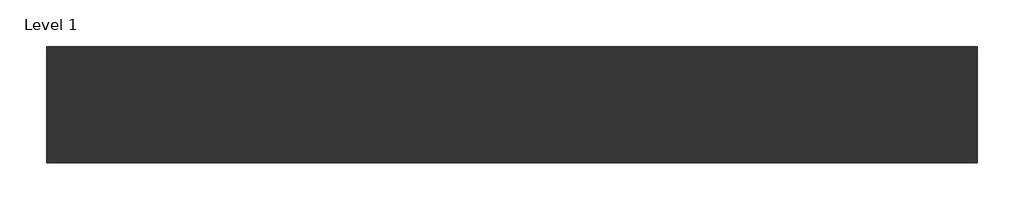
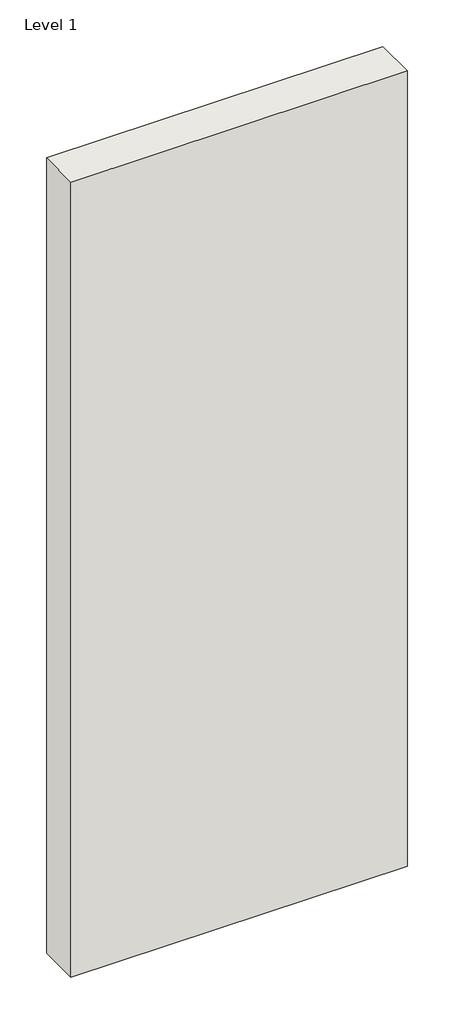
# One storey: 1 wall.
"""IFC4 building model written with IfcOpenShell, lengths in millimetres."""

import ifcopenshell
import ifcopenshell.guid

model = None  # the IFC model being written
_history = None  # IfcOwnerHistory: only IFC2X3 demands one
_inside = {}  # id of a spatial element -> (the spatial element, [elements in it])
_under = {}  # id of a project, library or spatial element -> (it, [spatial elements below it])
_declared = {}  # id of a project -> (the project, [libraries it declares])
_typed = {}  # id of a type object -> (the type object, [elements of that type])
_made_of = {}  # id of a material, layer set ... -> (it, [elements and type objects made of it])


def new_model(schema):
    """Start an empty IFC model of exactly this schema.

    Asked for "IFC4X3", IfcOpenShell would pick the latest addendum, in which some entities
    have other attributes; the version numbers below select the first issue.
    IFC2X3 requires an IfcOwnerHistory on every rooted entity: one is made here for all.
    """
    global model, _history
    if schema == "IFC4X3":
        model = ifcopenshell.file(schema_version=(4, 3, 0, 0))
    else:
        model = ifcopenshell.file(schema=schema)
    _inside.clear()
    _under.clear()
    _declared.clear()
    _typed.clear()
    _made_of.clear()
    _history = None
    if model.schema == "IFC2X3":
        org = make("IfcOrganization", Name="unknown")
        user = make(
            "IfcPersonAndOrganization",
            ThePerson=make("IfcPerson", FamilyName="unknown"),
            TheOrganization=org,
        )
        app = make(
            "IfcApplication",
            ApplicationDeveloper=org,
            Version="unknown",
            ApplicationFullName="unknown",
            ApplicationIdentifier="unknown",
        )
        _history = make(
            "IfcOwnerHistory",
            OwningUser=user,
            OwningApplication=app,
            ChangeAction="ADDED",
            CreationDate=0,
        )
    return model


def make(cls, **values):
    """One entity of the class cls with the attributes given. An attribute that is None is left unset."""
    return model.create_entity(
        cls, **{name: value for name, value in values.items() if value is not None}
    )


def rooted(cls, **values):
    """An entity with a GlobalId (a new one), such as an element, a storey or a relation."""
    return make(cls, GlobalId=ifcopenshell.guid.new(), OwnerHistory=_history, **values)


def si_unit(unit_type, name, prefix=None):
    """IfcSIUnit, for example si_unit("LENGTHUNIT", "METRE", prefix="MILLI")."""
    return make("IfcSIUnit", UnitType=unit_type, Prefix=prefix, Name=name)


def assignment(units):
    """IfcUnitAssignment: the units of a project."""
    return None if units is None else make("IfcUnitAssignment", Units=units)


def point(xyz):
    """IfcCartesianPoint."""
    return None if xyz is None else make("IfcCartesianPoint", Coordinates=xyz)


def direction(xyz):
    """IfcDirection."""
    return None if xyz is None else make("IfcDirection", DirectionRatios=xyz)


def frame(location, z_axis=None, x_axis=None):
    """IfcAxis2Placement3D, a coordinate frame: its origin and axes. An axis left out is left unset."""
    return make(
        "IfcAxis2Placement3D",
        Location=point(location),
        Axis=direction(z_axis),
        RefDirection=direction(x_axis),
    )


def origin():
    """The frame at (0, 0, 0) with its axes left unset."""
    return frame((0.0, 0.0, 0.0))


def origin_with_axes():
    """The frame at (0, 0, 0) with the z axis (0, 0, 1) and the x axis (1, 0, 0) written out."""
    return frame((0.0, 0.0, 0.0), z_axis=(0.0, 0.0, 1.0), x_axis=(1.0, 0.0, 0.0))


def place(relative_to, where):
    """IfcLocalPlacement: puts the frame where relative to a parent placement (None: the world)."""
    return make(
        "IfcLocalPlacement", PlacementRelTo=relative_to, RelativePlacement=where
    )


def context(
    kind, dimensions, precision=None, world=None, true_north=None, identifier=None
):
    """IfcGeometricRepresentationContext, for example the 3D "Model" context."""
    return make(
        "IfcGeometricRepresentationContext",
        ContextIdentifier=identifier,
        ContextType=kind,
        CoordinateSpaceDimension=dimensions,
        Precision=precision,
        WorldCoordinateSystem=world,
        TrueNorth=true_north,
    )


def project(units=None, contexts=None):
    """IfcProject with its units and contexts."""
    return rooted(
        "IfcProject",
        Name="project",
        RepresentationContexts=contexts,
        UnitsInContext=assignment(units),
    )


def spatial(cls, under=None, at=None, **own):
    """A site, building, storey or space (cls), placed at a placement, below another one or the project."""
    s = rooted(cls, ObjectPlacement=at, **own)
    if under is not None:
        _under.setdefault(under.id(), (under, []))[1].append(s)
    return s


def polyline(points):
    """IfcPolyline through the points."""
    return make("IfcPolyline", Points=[point(p) for p in points])


def outline(outer, holes=None, kind="AREA"):
    """IfcArbitraryClosedProfileDef: a profile drawn as a closed curve; with holes, ...WithVoids."""
    if holes is None:
        return make("IfcArbitraryClosedProfileDef", ProfileType=kind, OuterCurve=outer)
    return make(
        "IfcArbitraryProfileDefWithVoids",
        ProfileType=kind,
        OuterCurve=outer,
        InnerCurves=holes,
    )


def extrude(swept, where, along, depth):
    """IfcExtrudedAreaSolid: the profile swept, set in the frame where, extruded along a direction by depth."""
    return make(
        "IfcExtrudedAreaSolid",
        SweptArea=swept,
        Position=where,
        ExtrudedDirection=direction(along),
        Depth=depth,
    )


def shape(context_of_items, identifier, shape_type, items):
    """IfcShapeRepresentation: the items that make up one representation, for example the "Body"."""
    return make(
        "IfcShapeRepresentation",
        ContextOfItems=context_of_items,
        RepresentationIdentifier=identifier,
        RepresentationType=shape_type,
        Items=items,
    )


def made_of(thing, what):
    """Note that an element or type object is made of a material, layer set ...; save() writes the relation."""
    if what is not None:
        _made_of.setdefault(what.id(), (what, []))[1].append(thing)
    return thing


def element(
    cls,
    number,
    at=None,
    inside=None,
    cuts=None,
    type_object=None,
    material=None,
    context=None,
    identifier="Body",
    shape_type=None,
    held_by="IfcProductDefinitionShape",
    body=None,
    shapes=None,
    **own,
):
    """One element of the class cls, such as IfcWall. Its Tag is "e" and its number.

    at: its placement. inside: the storey or other place that contains it. cuts: it is an
    opening in that element (IfcRelVoidsElement). A single representation is given by context,
    identifier, shape_type and body (its items); several are given by shapes. held_by: the class
    of the entity that holds the representations. save() writes the other relations.
    """
    e = rooted(cls, Tag="e%d" % number, ObjectPlacement=at, **own)
    if body is not None:
        shapes = [shape(context, identifier, shape_type, body)]
    if shapes is not None:
        e.Representation = make(held_by, Representations=shapes)
    if inside is not None:
        _inside.setdefault(inside.id(), (inside, []))[1].append(e)
    if cuts is not None:
        rooted(
            "IfcRelVoidsElement", RelatingBuildingElement=cuts, RelatedOpeningElement=e
        )
    if type_object is not None:
        _typed.setdefault(type_object.id(), (type_object, []))[1].append(e)
    return made_of(e, material)


def aggregate(whole, parts):
    """IfcRelAggregates: a whole, such as a stair, and the parts it consists of."""
    return rooted("IfcRelAggregates", RelatingObject=whole, RelatedObjects=parts)


def save(model, path):
    """Write the relations noted so far, then the file.

    IfcRelAggregates (storeys below a building ...), IfcRelContainedInSpatialStructure (elements
    in a storey), IfcRelDefinesByType, IfcRelAssociatesMaterial and IfcRelDeclares: one each for
    every whole, place, type object, material and project.
    """
    for whole, parts in _under.values():
        aggregate(whole, parts)
    for where, things in _inside.values():
        rooted(
            "IfcRelContainedInSpatialStructure",
            RelatedElements=things,
            RelatingStructure=where,
        )
    for kind, things in _typed.values():
        rooted("IfcRelDefinesByType", RelatedObjects=things, RelatingType=kind)
    for what, things in _made_of.values():
        rooted("IfcRelAssociatesMaterial", RelatedObjects=things, RelatingMaterial=what)
    for by, libraries in _declared.values():
        rooted("IfcRelDeclares", RelatingContext=by, RelatedDefinitions=libraries)
    model.write(path)


model = new_model("IFC4")

# Units and contexts
model_context = context("Model", 3, world=origin())
ifc_project = project(units=[si_unit("LENGTHUNIT", "METRE", prefix="MILLI")], contexts=[model_context])

# Site, building, storey
site = spatial("IfcSite", under=ifc_project)
building = spatial("IfcBuilding", under=site)
storey = spatial("IfcBuildingStorey", under=building, Name="Level 1", Elevation=0.0)

# Wall
placement = place(None, origin())
element("IfcWall", 1, ObjectType="RIGIPS - 3.40.05 AKU - EI 120, REI 120 - 5500 - 61dB", at=placement, inside=storey, context=model_context, shape_type="SweptSolid", body=[
    extrude(outline(polyline([(1000.0, -62.5), (0.0, -62.5), (0.0, 62.5), (1000.0, 62.5), (1000.0, -62.5)])), origin_with_axes(), (0.0, 0.0, 1.0), 2500.0),
])

save(model, "model.ifc")
